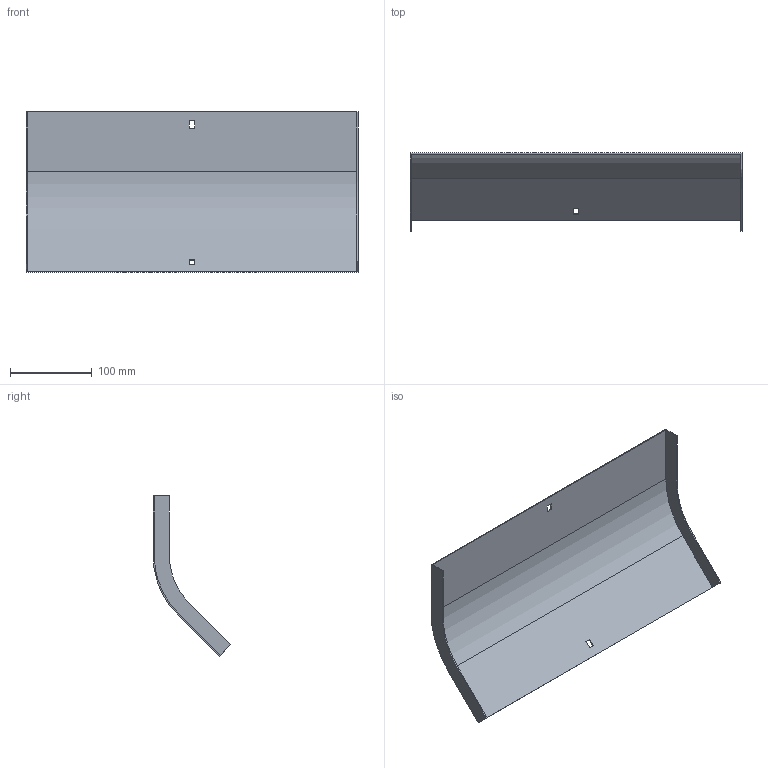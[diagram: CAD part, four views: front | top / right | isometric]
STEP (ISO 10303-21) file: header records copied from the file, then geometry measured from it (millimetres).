
FILE_DESCRIPTION (( 'STEP AP214' ), '1' );
FILE_NAME ('34G1D400.step', '2025-02-21T12:42:27', ( '' ), ( '' ), 'SwSTEP 2.0', 'SolidWorks 2023', '' );
FILE_SCHEMA (( 'AUTOMOTIVE_DESIGN' ));
Length unit declared in the file: millimetre
Products named in the file (1): 34G1D400
Bounding box: 407 x 95.56 x 196.56 mm (x, y, z)
Volume: 149457.6 mm3; surface area: 201334.2 mm2
Topology: 1 solids, 1 shells, 26 faces, 72 edges, 48 vertices
Faces by surface type: plane 22, cylinder 4
Entity records: 855 total; most frequent: CARTESIAN_POINT 147, ORIENTED_EDGE 144, DIRECTION 134, EDGE_CURVE 72, VECTOR 64, LINE 64, VERTEX_POINT 48, AXIS2_PLACEMENT_3D 35
